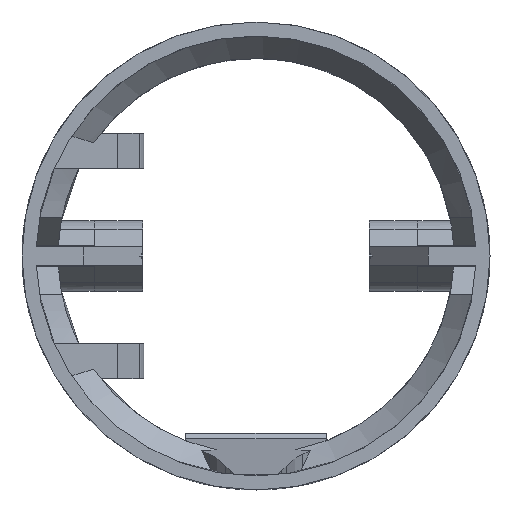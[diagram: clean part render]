
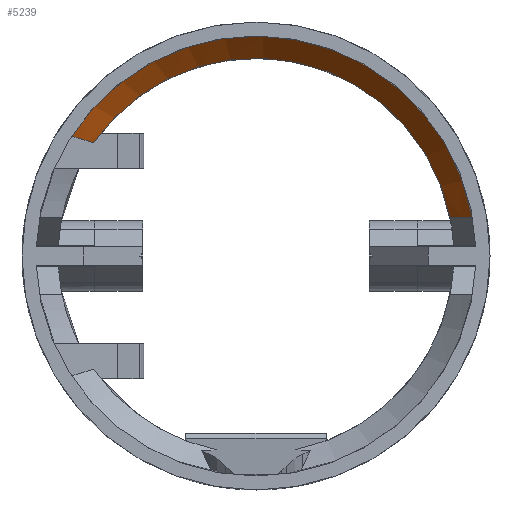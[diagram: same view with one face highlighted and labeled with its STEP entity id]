
A CAD part, left-side view. The second image highlights one B-rep face of the part: STEP entity #5239.
In plain terms, the highlighted conical face has half-angle 40 degrees and reference radius 18.85 mm.
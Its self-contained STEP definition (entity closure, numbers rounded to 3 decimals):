
#1291 = PLANE('',#1292);
#1292 = AXIS2_PLACEMENT_3D('',#1293,#1294,#1295);
#1293 = CARTESIAN_POINT('',(36.9,-30.,3.3));
#1294 = DIRECTION('',(0.,0.,1.));
#1295 = DIRECTION('',(1.,0.,-0.));
#2404 = CYLINDRICAL_SURFACE('',#2405,16.9);
#2405 = AXIS2_PLACEMENT_3D('',#2406,#2407,#2408);
#2406 = CARTESIAN_POINT('',(42.,0.,0.));
#2407 = DIRECTION('',(1.,0.,0.));
#2408 = DIRECTION('',(-0.,1.,0.));
#5100 = VERTEX_POINT('',#5101);
#5101 = CARTESIAN_POINT('',(42.,13.868,9.659));
#5119 = PLANE('',#5120);
#5120 = AXIS2_PLACEMENT_3D('',#5121,#5122,#5123);
#5121 = CARTESIAN_POINT('',(22.775,30.,7.5));
#5122 = DIRECTION('',(0.643,0.766,-0.));
#5123 = DIRECTION('',(0.766,-0.643,0.));
#5131 = EDGE_CURVE('',#5100,#5132,#5134,.T.);
#5132 = VERTEX_POINT('',#5133);
#5133 = CARTESIAN_POINT('',(42.,-16.575,3.3));
#5134 = SURFACE_CURVE('',#5135,(#5140,#5147),.PCURVE_S1.);
#5135 = CIRCLE('',#5136,16.9);
#5136 = AXIS2_PLACEMENT_3D('',#5137,#5138,#5139);
#5137 = CARTESIAN_POINT('',(42.,0.,0.));
#5138 = DIRECTION('',(1.,0.,0.));
#5139 = DIRECTION('',(-0.,1.,0.));
#5140 = PCURVE('',#2404,#5141);
#5141 = DEFINITIONAL_REPRESENTATION('',(#5142),#5146);
#5142 = LINE('',#5143,#5144);
#5143 = CARTESIAN_POINT('',(0.,0.));
#5144 = VECTOR('',#5145,1.);
#5145 = DIRECTION('',(1.,0.));
#5146 = ( GEOMETRIC_REPRESENTATION_CONTEXT(2) 
PARAMETRIC_REPRESENTATION_CONTEXT() REPRESENTATION_CONTEXT('2D SPACE',''
  ) );
#5147 = PCURVE('',#5148,#5153);
#5148 = CONICAL_SURFACE('',#5149,18.85,0.698);
#5149 = AXIS2_PLACEMENT_3D('',#5150,#5151,#5152);
#5150 = CARTESIAN_POINT('',(39.676,0.,0.));
#5151 = DIRECTION('',(-1.,-0.,-0.));
#5152 = DIRECTION('',(-0.,1.,0.));
#5153 = DEFINITIONAL_REPRESENTATION('',(#5154),#5158);
#5154 = LINE('',#5155,#5156);
#5155 = CARTESIAN_POINT('',(-0.,-2.324));
#5156 = VECTOR('',#5157,1.);
#5157 = DIRECTION('',(-1.,-0.));
#5158 = ( GEOMETRIC_REPRESENTATION_CONTEXT(2) 
PARAMETRIC_REPRESENTATION_CONTEXT() REPRESENTATION_CONTEXT('2D SPACE',''
  ) );
#5239 = ADVANCED_FACE('',(#5240),#5148,.F.);
#5240 = FACE_BOUND('',#5241,.F.);
#5241 = EDGE_LOOP('',(#5242,#5269,#5298,#5323));
#5242 = ORIENTED_EDGE('',*,*,#5243,.T.);
#5243 = EDGE_CURVE('',#5100,#5244,#5246,.T.);
#5244 = VERTEX_POINT('',#5245);
#5245 = CARTESIAN_POINT('',(39.736,15.768,
    10.238));
#5246 = SURFACE_CURVE('',#5247,(#5252,#5262),.PCURVE_S1.);
#5247 = PARABOLA('',#5248,0.975);
#5248 = AXIS2_PLACEMENT_3D('',#5249,#5250,#5251);
#5249 = CARTESIAN_POINT('',(60.334,-1.516,0.));
#5250 = DIRECTION('',(0.643,0.766,-0.));
#5251 = DIRECTION('',(-0.766,0.643,-0.));
#5252 = PCURVE('',#5148,#5253);
#5253 = DEFINITIONAL_REPRESENTATION('',(#5254),#5261);
#5254 = B_SPLINE_CURVE_WITH_KNOTS('',5,(#5255,#5256,#5257,#5258,#5259,
    #5260),.UNSPECIFIED.,.F.,.F.,(6,6),(9.659,10.238),
  .PIECEWISE_BEZIER_KNOTS.);
#5255 = CARTESIAN_POINT('',(-0.608,-2.324));
#5256 = CARTESIAN_POINT('',(-0.602,-1.884));
#5257 = CARTESIAN_POINT('',(-0.595,-1.438));
#5258 = CARTESIAN_POINT('',(-0.588,-0.985));
#5259 = CARTESIAN_POINT('',(-0.582,-0.526));
#5260 = CARTESIAN_POINT('',(-0.576,-0.06));
#5261 = ( GEOMETRIC_REPRESENTATION_CONTEXT(2) 
PARAMETRIC_REPRESENTATION_CONTEXT() REPRESENTATION_CONTEXT('2D SPACE',''
  ) );
#5262 = PCURVE('',#5119,#5263);
#5263 = DEFINITIONAL_REPRESENTATION('',(#5264),#5268);
#5264 = B_SPLINE_CURVE_WITH_KNOTS('',2,(#5265,#5266,#5267),
  .UNSPECIFIED.,.F.,.F.,(3,3),(9.659,10.238),
  .PIECEWISE_BEZIER_KNOTS.);
#5265 = CARTESIAN_POINT('',(25.097,-2.159));
#5266 = CARTESIAN_POINT('',(23.662,-2.448));
#5267 = CARTESIAN_POINT('',(22.141,-2.738));
#5268 = ( GEOMETRIC_REPRESENTATION_CONTEXT(2) 
PARAMETRIC_REPRESENTATION_CONTEXT() REPRESENTATION_CONTEXT('2D SPACE',''
  ) );
#5269 = ORIENTED_EDGE('',*,*,#5270,.T.);
#5270 = EDGE_CURVE('',#5244,#5271,#5273,.T.);
#5271 = VERTEX_POINT('',#5272);
#5272 = CARTESIAN_POINT('',(39.736,-18.508,3.3));
#5273 = SURFACE_CURVE('',#5274,(#5279,#5286),.PCURVE_S1.);
#5274 = CIRCLE('',#5275,18.8);
#5275 = AXIS2_PLACEMENT_3D('',#5276,#5277,#5278);
#5276 = CARTESIAN_POINT('',(39.736,0.,0.));
#5277 = DIRECTION('',(1.,0.,0.));
#5278 = DIRECTION('',(-0.,0.839,0.545));
#5279 = PCURVE('',#5148,#5280);
#5280 = DEFINITIONAL_REPRESENTATION('',(#5281),#5285);
#5281 = LINE('',#5282,#5283);
#5282 = CARTESIAN_POINT('',(-0.576,-0.06));
#5283 = VECTOR('',#5284,1.);
#5284 = DIRECTION('',(-1.,-0.));
#5285 = ( GEOMETRIC_REPRESENTATION_CONTEXT(2) 
PARAMETRIC_REPRESENTATION_CONTEXT() REPRESENTATION_CONTEXT('2D SPACE',''
  ) );
#5286 = PCURVE('',#5287,#5292);
#5287 = CYLINDRICAL_SURFACE('',#5288,18.8);
#5288 = AXIS2_PLACEMENT_3D('',#5289,#5290,#5291);
#5289 = CARTESIAN_POINT('',(29.,0.,0.));
#5290 = DIRECTION('',(1.,0.,0.));
#5291 = DIRECTION('',(-0.,0.,1.));
#5292 = DEFINITIONAL_REPRESENTATION('',(#5293),#5297);
#5293 = LINE('',#5294,#5295);
#5294 = CARTESIAN_POINT('',(5.288,10.736));
#5295 = VECTOR('',#5296,1.);
#5296 = DIRECTION('',(1.,0.));
#5297 = ( GEOMETRIC_REPRESENTATION_CONTEXT(2) 
PARAMETRIC_REPRESENTATION_CONTEXT() REPRESENTATION_CONTEXT('2D SPACE',''
  ) );
#5298 = ORIENTED_EDGE('',*,*,#5299,.F.);
#5299 = EDGE_CURVE('',#5132,#5271,#5300,.T.);
#5300 = SURFACE_CURVE('',#5301,(#5306,#5316),.PCURVE_S1.);
#5301 = HYPERBOLA('',#5302,3.933,3.3);
#5302 = AXIS2_PLACEMENT_3D('',#5303,#5304,#5305);
#5303 = CARTESIAN_POINT('',(62.141,0.,3.3));
#5304 = DIRECTION('',(0.,0.,1.));
#5305 = DIRECTION('',(-1.,0.,0.));
#5306 = PCURVE('',#5148,#5307);
#5307 = DEFINITIONAL_REPRESENTATION('',(#5308),#5315);
#5308 = B_SPLINE_CURVE_WITH_KNOTS('',5,(#5309,#5310,#5311,#5312,#5313,
    #5314),.UNSPECIFIED.,.F.,.F.,(6,6),(2.317,2.425),
  .PIECEWISE_BEZIER_KNOTS.);
#5309 = CARTESIAN_POINT('',(-2.945,-2.324));
#5310 = CARTESIAN_POINT('',(-2.949,-1.896));
#5311 = CARTESIAN_POINT('',(-2.953,-1.455));
#5312 = CARTESIAN_POINT('',(-2.957,-1.003));
#5313 = CARTESIAN_POINT('',(-2.961,-0.538));
#5314 = CARTESIAN_POINT('',(-2.965,-0.06));
#5315 = ( GEOMETRIC_REPRESENTATION_CONTEXT(2) 
PARAMETRIC_REPRESENTATION_CONTEXT() REPRESENTATION_CONTEXT('2D SPACE',''
  ) );
#5316 = PCURVE('',#1291,#5317);
#5317 = DEFINITIONAL_REPRESENTATION('',(#5318),#5322);
#5318 = ( BOUNDED_CURVE() B_SPLINE_CURVE(2,(#5319,#5320,#5321),
.UNSPECIFIED.,.F.,.F.) B_SPLINE_CURVE_WITH_KNOTS((3,3),(2.317,
2.425),.PIECEWISE_BEZIER_KNOTS.) CURVE() 
GEOMETRIC_REPRESENTATION_ITEM() RATIONAL_B_SPLINE_CURVE((1.,
1.001,1.)) REPRESENTATION_ITEM('') );
#5319 = CARTESIAN_POINT('',(5.1,13.425));
#5320 = CARTESIAN_POINT('',(4.03,12.51));
#5321 = CARTESIAN_POINT('',(2.836,11.492));
#5322 = ( GEOMETRIC_REPRESENTATION_CONTEXT(2) 
PARAMETRIC_REPRESENTATION_CONTEXT() REPRESENTATION_CONTEXT('2D SPACE',''
  ) );
#5323 = ORIENTED_EDGE('',*,*,#5131,.F.);
